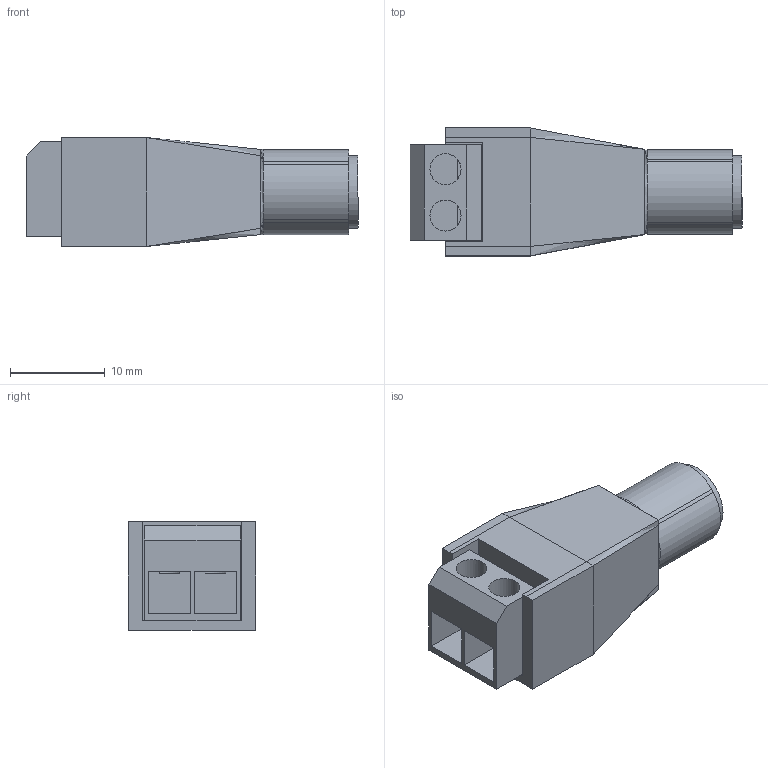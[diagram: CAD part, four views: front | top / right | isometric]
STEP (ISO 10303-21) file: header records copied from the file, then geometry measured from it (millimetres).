
FILE_DESCRIPTION(('FreeCAD Model'),'2;1');
FILE_NAME('Open CASCADE Shape Model','2023-04-10T16:48:46',('Author'),( ''),'Open CASCADE STEP processor 7.5','FreeCAD','Unknown');
FILE_SCHEMA(('AUTOMOTIVE_DESIGN { 1 0 10303 214 1 1 1 1 }'));
Length unit declared in the file: millimetre
Products named in the file (3): input mom; Body120; Body121
Assembly tree (2 placements, depth 2):
  input mom
    Body120
    Body121
Bounding box: 35.05 x 13.5 x 11.5 mm (x, y, z)
Volume: 2962.8 mm3; surface area: 2658.1 mm2
Topology: 2 solids, 2 shells, 71 faces, 164 edges, 100 vertices
Faces by surface type: plane 38, bspline 18, cylinder 15
Full cylindrical faces by diameter (mm): 1 x1, 3.28 x2, 6.326 x2, 7.7 x1
Entity records: 4188 total; most frequent: CARTESIAN_POINT 932, DIRECTION 541, LINE 346, VECTOR 346, ORIENTED_EDGE 328, PCURVE 328, DEFINITIONAL_REPRESENTATION 328, EDGE_CURVE 164
